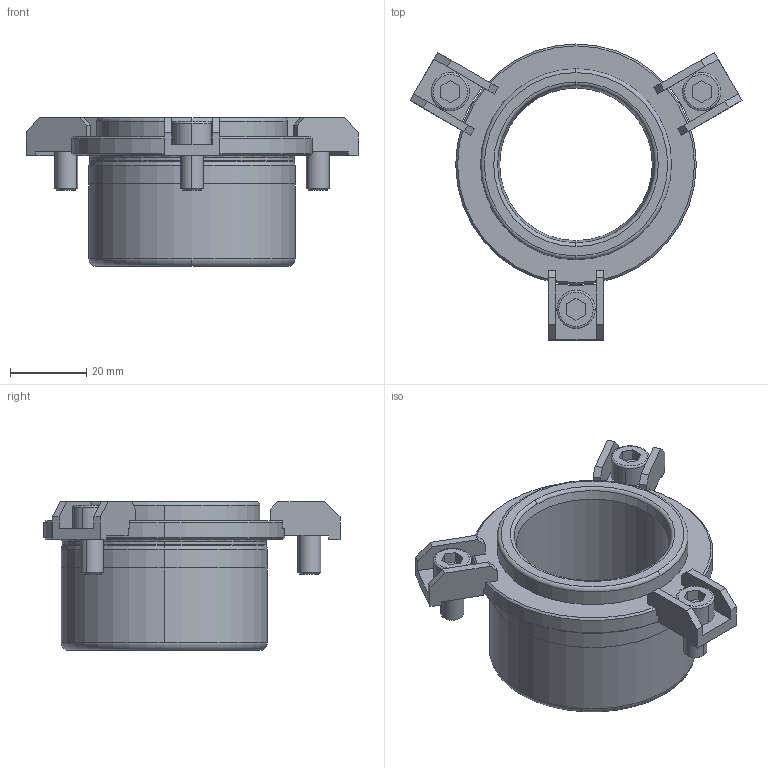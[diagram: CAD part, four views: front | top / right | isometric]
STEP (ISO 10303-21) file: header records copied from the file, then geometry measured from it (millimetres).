
FILE_DESCRIPTION((''),'2;1');
FILE_NAME('B42_032_029.stp','2008-11-04T14:31:27',(''),(''),'Mechanical Desktop 2009','Mechanical Desktop 2009',', , ');
FILE_SCHEMA(('CONFIG_CONTROL_DESIGN'));
Length unit declared in the file: millimetre
Products named in the file (2): Product; blmdl1
Assembly tree (1 placements, depth 2):
  Product
    blmdl1
Bounding box: 86.92 x 77.5 x 39 mm (x, y, z)
Volume: 46935.8 mm3; surface area: 19824.8 mm2
Topology: 7 solids, 7 shells, 185 faces, 474 edges, 312 vertices
Faces by surface type: plane 104, cylinder 39, cone 18, torus 14, bspline 10
Entity records: 6165 total; most frequent: CARTESIAN_POINT 1413, DIRECTION 1008, ORIENTED_EDGE 948, EDGE_CURVE 474, AXIS2_PLACEMENT_3D 357, VERTEX_POINT 312, VECTOR 294, LINE 294
